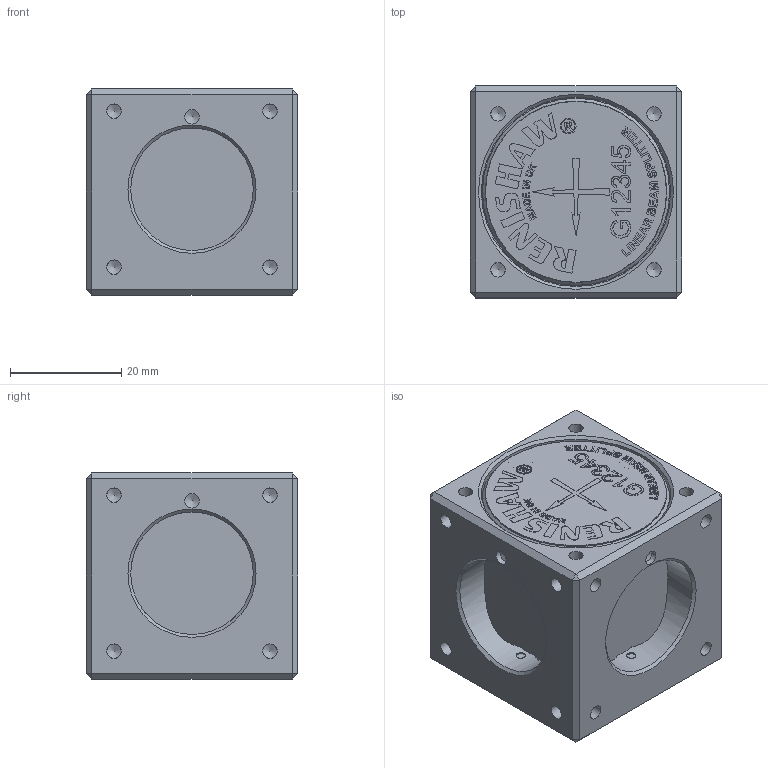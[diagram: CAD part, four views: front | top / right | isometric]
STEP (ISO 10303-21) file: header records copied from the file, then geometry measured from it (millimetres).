
FILE_DESCRIPTION(/* description */ (''),/* implementation_level */ '2;1');
FILE_NAME(/* name */ 'LA_8003_3148_A.stp',/* time_stamp */ '2010-07-20T15:22:04+01:00',/* author */ (''),/* organization */ (''),/* preprocessor_version */ 'ST-DEVELOPER v11',/* originating_system */ 'SIEMENS UGS NX 6.0',/* authorisation */ '');
FILE_SCHEMA (('CONFIG_CONTROL_DESIGN'));
Length unit declared in the file: millimetre
Products named in the file (1): LA-8003-3148_A
Bounding box: 38 x 38 x 37 mm (x, y, z)
Volume: 40320.3 mm3; surface area: 15292.8 mm2
Topology: 1 solids, 13 shells, 906 faces, 2516 edges, 1663 vertices
Faces by surface type: plane 579, extrusion 162, cylinder 119, cone 46
Full cylindrical faces by diameter (mm): 1.7 x8, 2 x8, 2.2 x8, 2.4 x1, 2.6 x52, 2.8 x1, 3.8 x8, 4.3 x8, 22 x4, 32.5 x1, 33.6 x2, 34 x2
Entity records: 28115 total; most frequent: CARTESIAN_POINT 6576, ORIENTED_EDGE 4440, DIRECTION 3862, EDGE_CURVE 2220, VECTOR 1696, VERTEX_POINT 1546, LINE 1534, EDGE_LOOP 1164
